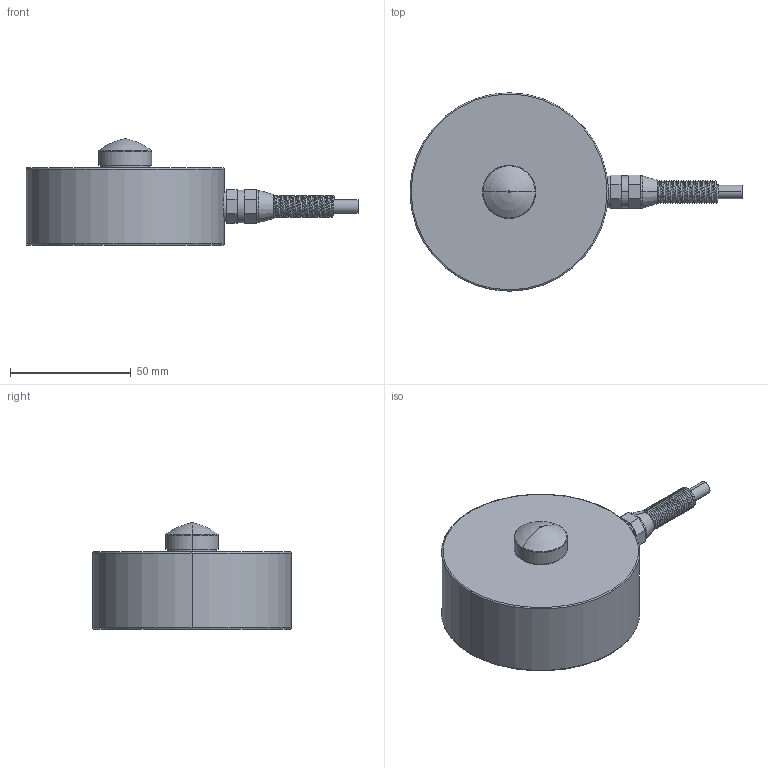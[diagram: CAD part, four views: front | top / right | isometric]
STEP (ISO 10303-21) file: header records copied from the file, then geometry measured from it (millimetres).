
FILE_DESCRIPTION (( 'STEP AP214' ), '1' );
FILE_NAME ('3D_KTB82.STEP', '2014-05-23T10:43:52', ( '' ), ( '' ), 'SwSTEP 2.0', 'SolidWorks 2012', '' );
FILE_SCHEMA (( 'AUTOMOTIVE_DESIGN' ));
Length unit declared in the file: metre
Products named in the file (1): 3D_KTB82
Bounding box: 137.3 x 82 x 44 mm (x, y, z)
Volume: 174837.7 mm3; surface area: 23881.1 mm2
Topology: 1 solids, 1 shells, 68 faces, 153 edges, 92 vertices
Faces by surface type: plane 28, cylinder 20, cone 8, torus 8, bspline 4
Entity records: 20036 total; most frequent: CARTESIAN_POINT 18470, DIRECTION 327, ORIENTED_EDGE 294, EDGE_CURVE 147, AXIS2_PLACEMENT_3D 125, VERTEX_POINT 92, EDGE_LOOP 79, LINE 77
